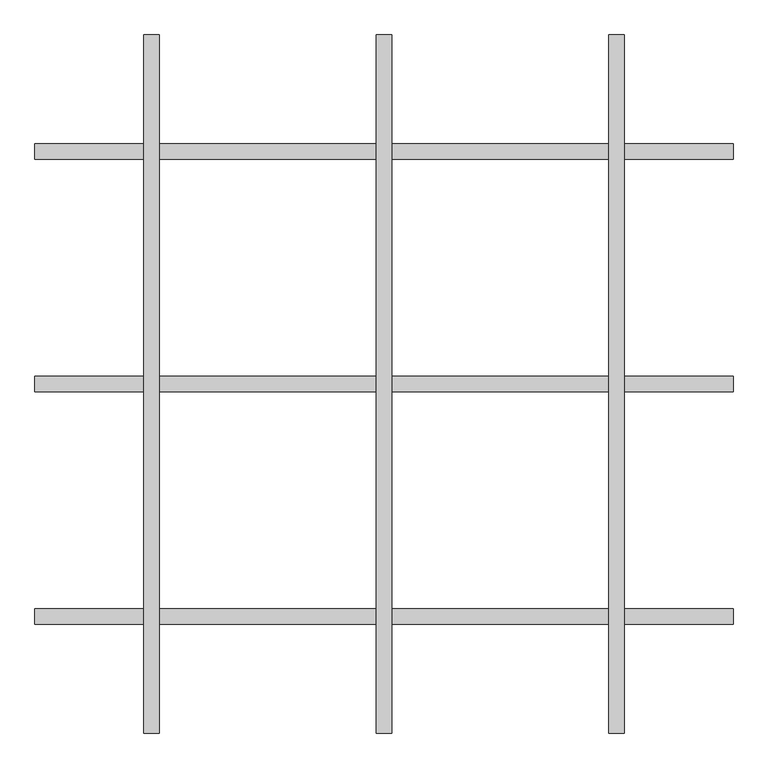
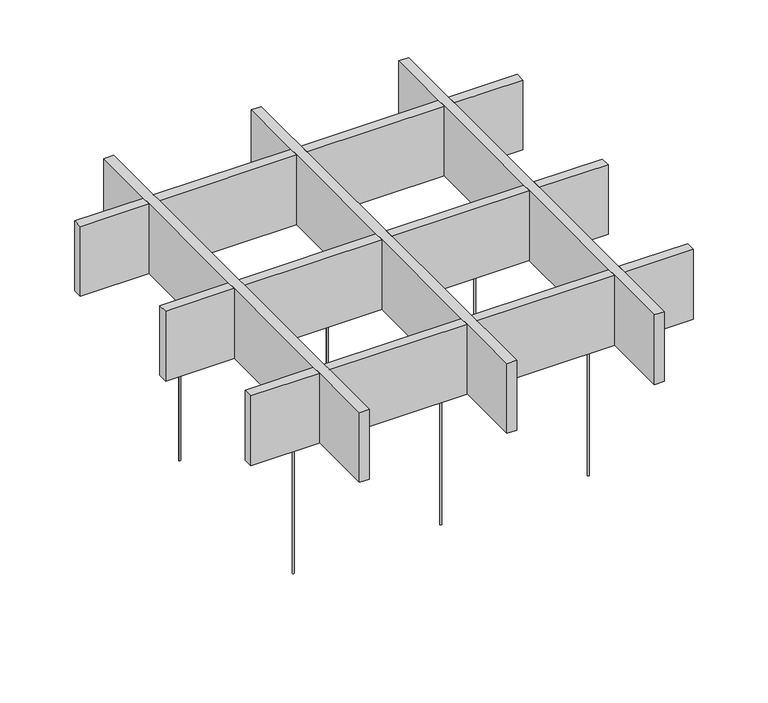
"""IFC4 building model written with IfcOpenShell, lengths in millimetres: proxy geometry, OWA FreeStyle cells : FreeStyle cells Square."""

from ifc_helpers import new_model, si_unit, point, frame, frame_2d, origin, origin_with_axes, place, context, project, spatial, polyline, circle_curve, trimmed, segment, composite_curve, outline, extrude, source, transform, mapped, element, save


def specialty_equipment_45da7169(model_context):
    return source(origin(), model_context, "Body", "SweptSolid", [
        extrude(outline(polyline([(-1039.2735027, -400.0), (-1036.3867513, -395.0), (-1030.6132487, -395.0), (-1027.7264973, -400.0), (-1030.6132487, -405.0), (-1036.3867513, -405.0), (-1039.2735027, -400.0)]), holes=[composite_curve([segment(trimmed(circle_curve(frame_2d((-1033.5, -400.0)), 3.85), [point((-1037.35, -400.0))], [point((-1029.65, -400.0))], True, "CARTESIAN"), True, "CONTINUOUS"), segment(trimmed(circle_curve(frame_2d((-1033.5, -400.0)), 3.85), [point((-1029.65, -400.0))], [point((-1037.35, -400.0))], True, "CARTESIAN"), True, "CONTINUOUS")], self_intersect=False)]), frame((0.0, 0.0, 695.0), z_axis=(0.0, 0.0, 1.0), x_axis=(1.0, 0.0, 0.0)), (0.0, 0.0, 1.0), 5.0),
        extrude(outline(composite_curve([segment(trimmed(circle_curve(frame_2d((-1033.5, -400.0)), 3.85), [point((-1037.35, -400.0))], [point((-1029.65, -400.0))], False, "CARTESIAN"), True, "CONTINUOUS"), segment(trimmed(circle_curve(frame_2d((-1033.5, -400.0)), 3.85), [point((-1029.65, -400.0))], [point((-1037.35, -400.0))], False, "CARTESIAN"), True, "CONTINUOUS")], self_intersect=False)), origin_with_axes(), (0.0, 0.0, 1.0), 700.0),
        extrude(outline(polyline([(-439.2735027, -400.0), (-436.3867513, -395.0), (-430.6132487, -395.0), (-427.7264973, -400.0), (-430.6132487, -405.0), (-436.3867513, -405.0), (-439.2735027, -400.0)]), holes=[composite_curve([segment(trimmed(circle_curve(frame_2d((-433.5, -400.0)), 3.85), [point((-437.35, -400.0))], [point((-429.65, -400.0))], True, "CARTESIAN"), True, "CONTINUOUS"), segment(trimmed(circle_curve(frame_2d((-433.5, -400.0)), 3.85), [point((-429.65, -400.0))], [point((-437.35, -400.0))], True, "CARTESIAN"), True, "CONTINUOUS")], self_intersect=False)]), frame((0.0, 0.0, 695.0), z_axis=(0.0, 0.0, 1.0), x_axis=(1.0, 0.0, 0.0)), (0.0, 0.0, 1.0), 5.0),
        extrude(outline(composite_curve([segment(trimmed(circle_curve(frame_2d((-433.5, -400.0)), 3.85), [point((-437.35, -400.0))], [point((-429.65, -400.0))], False, "CARTESIAN"), True, "CONTINUOUS"), segment(trimmed(circle_curve(frame_2d((-433.5, -400.0)), 3.85), [point((-429.65, -400.0))], [point((-437.35, -400.0))], False, "CARTESIAN"), True, "CONTINUOUS")], self_intersect=False)), origin_with_axes(), (0.0, 0.0, 1.0), 700.0),
        extrude(outline(polyline([(160.7264973, -400.0), (163.6132487, -395.0), (169.3867513, -395.0), (172.2735027, -400.0), (169.3867513, -405.0), (163.6132487, -405.0), (160.7264973, -400.0)]), holes=[composite_curve([segment(trimmed(circle_curve(frame_2d((166.5, -400.0)), 3.85), [point((162.65, -400.0))], [point((170.35, -400.0))], True, "CARTESIAN"), True, "CONTINUOUS"), segment(trimmed(circle_curve(frame_2d((166.5, -400.0)), 3.85), [point((170.35, -400.0))], [point((162.65, -400.0))], True, "CARTESIAN"), True, "CONTINUOUS")], self_intersect=False)]), frame((0.0, 0.0, 695.0), z_axis=(0.0, 0.0, 1.0), x_axis=(1.0, 0.0, 0.0)), (0.0, 0.0, 1.0), 5.0),
        extrude(outline(composite_curve([segment(trimmed(circle_curve(frame_2d((166.5, -400.0)), 3.85), [point((162.65, -400.0))], [point((170.35, -400.0))], False, "CARTESIAN"), True, "CONTINUOUS"), segment(trimmed(circle_curve(frame_2d((166.5, -400.0)), 3.85), [point((170.35, -400.0))], [point((162.65, -400.0))], False, "CARTESIAN"), True, "CONTINUOUS")], self_intersect=False)), origin_with_axes(), (0.0, 0.0, 1.0), 700.0),
        extrude(outline(polyline([(160.7264973, 400.0), (163.6132487, 405.0), (169.3867513, 405.0), (172.2735027, 400.0), (169.3867513, 395.0), (163.6132487, 395.0), (160.7264973, 400.0)]), holes=[composite_curve([segment(trimmed(circle_curve(frame_2d((166.5, 400.0)), 3.85), [point((162.65, 400.0))], [point((170.35, 400.0))], True, "CARTESIAN"), True, "CONTINUOUS"), segment(trimmed(circle_curve(frame_2d((166.5, 400.0)), 3.85), [point((170.35, 400.0))], [point((162.65, 400.0))], True, "CARTESIAN"), True, "CONTINUOUS")], self_intersect=False)]), frame((0.0, 0.0, 695.0), z_axis=(0.0, 0.0, 1.0), x_axis=(1.0, 0.0, 0.0)), (0.0, 0.0, 1.0), 5.0),
        extrude(outline(composite_curve([segment(trimmed(circle_curve(frame_2d((166.5, 400.0)), 3.85), [point((162.65, 400.0))], [point((170.35, 400.0))], False, "CARTESIAN"), True, "CONTINUOUS"), segment(trimmed(circle_curve(frame_2d((166.5, 400.0)), 3.85), [point((170.35, 400.0))], [point((162.65, 400.0))], False, "CARTESIAN"), True, "CONTINUOUS")], self_intersect=False)), origin_with_axes(), (0.0, 0.0, 1.0), 700.0),
        extrude(outline(polyline([(-439.2735027, 400.0), (-436.3867513, 405.0), (-430.6132487, 405.0), (-427.7264973, 400.0), (-430.6132487, 395.0), (-436.3867513, 395.0), (-439.2735027, 400.0)]), holes=[composite_curve([segment(trimmed(circle_curve(frame_2d((-433.5, 400.0)), 3.85), [point((-437.35, 400.0))], [point((-429.65, 400.0))], True, "CARTESIAN"), True, "CONTINUOUS"), segment(trimmed(circle_curve(frame_2d((-433.5, 400.0)), 3.85), [point((-429.65, 400.0))], [point((-437.35, 400.0))], True, "CARTESIAN"), True, "CONTINUOUS")], self_intersect=False)]), frame((0.0, 0.0, 695.0), z_axis=(0.0, 0.0, 1.0), x_axis=(1.0, 0.0, 0.0)), (0.0, 0.0, 1.0), 5.0),
        extrude(outline(composite_curve([segment(trimmed(circle_curve(frame_2d((-433.5, 400.0)), 3.85), [point((-437.35, 400.0))], [point((-429.65, 400.0))], False, "CARTESIAN"), True, "CONTINUOUS"), segment(trimmed(circle_curve(frame_2d((-433.5, 400.0)), 3.85), [point((-429.65, 400.0))], [point((-437.35, 400.0))], False, "CARTESIAN"), True, "CONTINUOUS")], self_intersect=False)), origin_with_axes(), (0.0, 0.0, 1.0), 700.0),
        extrude(outline(polyline([(-1039.2735027, 400.0), (-1036.3867513, 405.0), (-1030.6132487, 405.0), (-1027.7264973, 400.0), (-1030.6132487, 395.0), (-1036.3867513, 395.0), (-1039.2735027, 400.0)]), holes=[composite_curve([segment(trimmed(circle_curve(frame_2d((-1033.5, 400.0)), 3.85), [point((-1037.35, 400.0))], [point((-1029.65, 400.0))], True, "CARTESIAN"), True, "CONTINUOUS"), segment(trimmed(circle_curve(frame_2d((-1033.5, 400.0)), 3.85), [point((-1029.65, 400.0))], [point((-1037.35, 400.0))], True, "CARTESIAN"), True, "CONTINUOUS")], self_intersect=False)]), frame((0.0, 0.0, 695.0), z_axis=(0.0, 0.0, 1.0), x_axis=(1.0, 0.0, 0.0)), (0.0, 0.0, 1.0), 5.0),
        extrude(outline(composite_curve([segment(trimmed(circle_curve(frame_2d((-1033.5, 400.0)), 3.85), [point((-1037.35, 400.0))], [point((-1029.65, 400.0))], False, "CARTESIAN"), True, "CONTINUOUS"), segment(trimmed(circle_curve(frame_2d((-1033.5, 400.0)), 3.85), [point((-1029.65, 400.0))], [point((-1037.35, 400.0))], False, "CARTESIAN"), True, "CONTINUOUS")], self_intersect=False)), origin_with_axes(), (0.0, 0.0, 1.0), 700.0),
        extrude(outline(polyline([(900.0, 1000.0), (900.0, 700.0), (620.0, 700.0), (620.0, 850.0), (580.0, 850.0), (580.0, 700.0), (20.0, 700.0), (20.0, 850.0), (-20.0, 850.0), (-20.0, 700.0), (-580.0, 700.0), (-580.0, 850.0), (-620.0, 850.0), (-620.0, 700.0), (-900.0, 700.0), (-900.0, 1000.0), (900.0, 1000.0)])), frame((146.5, 0.0, 0.0), z_axis=(1.0, 0.0, 0.0), x_axis=(0.0, 1.0, 0.0)), (0.0, 0.0, 1.0), 40.0),
        extrude(outline(polyline([(900.0, 1000.0), (900.0, 700.0), (620.0, 700.0), (620.0, 850.0), (580.0, 850.0), (580.0, 700.0), (20.0, 700.0), (20.0, 850.0), (-20.0, 850.0), (-20.0, 700.0), (-580.0, 700.0), (-580.0, 850.0), (-620.0, 850.0), (-620.0, 700.0), (-900.0, 700.0), (-900.0, 1000.0), (900.0, 1000.0)])), frame((-1053.5, 0.0, 0.0), z_axis=(1.0, 0.0, 0.0), x_axis=(0.0, 1.0, 0.0)), (0.0, 0.0, 1.0), 40.0),
        extrude(outline(polyline([(900.0, 1000.0), (900.0, 700.0), (620.0, 700.0), (620.0, 850.0), (580.0, 850.0), (580.0, 700.0), (20.0, 700.0), (20.0, 850.0), (-20.0, 850.0), (-20.0, 700.0), (-580.0, 700.0), (-580.0, 850.0), (-620.0, 850.0), (-620.0, 700.0), (-900.0, 700.0), (-900.0, 1000.0), (900.0, 1000.0)])), frame((-453.5, 0.0, 0.0), z_axis=(1.0, 0.0, 0.0), x_axis=(0.0, 1.0, 0.0)), (0.0, 0.0, 1.0), 40.0),
        extrude(outline(polyline([(700.0, 466.5), (1000.0, 466.5), (1000.0, 186.5), (850.0, 186.5), (850.0, 146.5), (1000.0, 146.5), (1000.0, -413.5), (850.0, -413.5), (850.0, -453.5), (1000.0, -453.5), (1000.0, -1013.5), (850.0, -1013.5), (850.0, -1053.5), (1000.0, -1053.5), (1000.0, -1333.5), (700.0, -1333.5), (700.0, 466.5)])), frame((0.0, 580.0, 0.0), z_axis=(0.0, 1.0, 0.0), x_axis=(0.0, 0.0, 1.0)), (0.0, 0.0, 1.0), 40.0),
        extrude(outline(polyline([(700.0, 466.5), (1000.0, 466.5), (1000.0, 186.5), (850.0, 186.5), (850.0, 146.5), (1000.0, 146.5), (1000.0, -413.5), (850.0, -413.5), (850.0, -453.5), (1000.0, -453.5), (1000.0, -1013.5), (850.0, -1013.5), (850.0, -1053.5), (1000.0, -1053.5), (1000.0, -1333.5), (700.0, -1333.5), (700.0, 466.5)])), frame((0.0, -20.0, 0.0), z_axis=(0.0, 1.0, 0.0), x_axis=(0.0, 0.0, 1.0)), (0.0, 0.0, 1.0), 40.0),
        extrude(outline(polyline([(700.0, 466.5), (1000.0, 466.5), (1000.0, 186.5), (850.0, 186.5), (850.0, 146.5), (1000.0, 146.5), (1000.0, -413.5), (850.0, -413.5), (850.0, -453.5), (1000.0, -453.5), (1000.0, -1013.5), (850.0, -1013.5), (850.0, -1053.5), (1000.0, -1053.5), (1000.0, -1333.5), (700.0, -1333.5), (700.0, 466.5)])), frame((0.0, -620.0, 0.0), z_axis=(0.0, 1.0, 0.0), x_axis=(0.0, 0.0, 1.0)), (0.0, 0.0, 1.0), 40.0),
    ])


if __name__ == "__main__":
    model = new_model("IFC4")
    model_context = context("Model", 3, world=origin())
    ifc_project = project(units=[si_unit("LENGTHUNIT", "METRE", prefix="MILLI")], contexts=[model_context])
    site = spatial("IfcSite", under=ifc_project)
    building = spatial("IfcBuilding", under=site)
    placement = place(None, origin())
    specialty_equipment_shape = specialty_equipment_45da7169(model_context)
    element("IfcBuildingElementProxy", 1, Name="OWA FreeStyle cells : FreeStyle cells Square", ObjectType="OWA FreeStyle cells : FreeStyle cells Square", at=placement, inside=building, context=model_context, shape_type="MappedRepresentation", body=[
        mapped(specialty_equipment_shape, transform((0.0, 0.0, 0.0), x_axis=(1.0, 0.0, 0.0), y_axis=(0.0, 1.0, 0.0), z_axis=(0.0, 0.0, 1.0))),
    ])
    save(model, "model.ifc")
